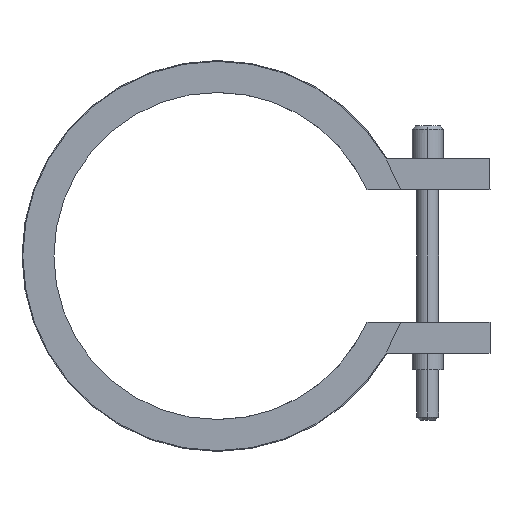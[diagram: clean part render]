
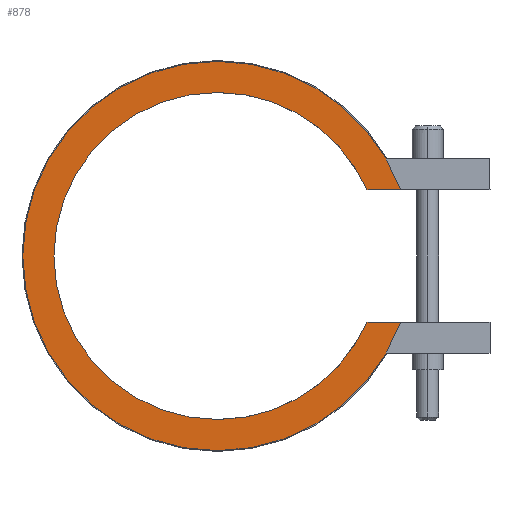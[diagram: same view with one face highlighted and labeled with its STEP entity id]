
A CAD part, left-side view. The second image highlights one B-rep face of the part: STEP entity #878.
In plain terms, the highlighted planar face has unit normal (-1, 0, 0).
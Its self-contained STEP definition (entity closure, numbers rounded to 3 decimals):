
#416=CARTESIAN_POINT('Vertex',(-15.,-19.203,-8.5)) ;
#419=CARTESIAN_POINT('Line Origine',(-15.,-21.357,-8.5)) ;
#423=CARTESIAN_POINT('Vertex',(-15.,-23.511,-8.5)) ;
#469=CARTESIAN_POINT('Vertex',(-15.,0.,-25.)) ;
#472=CARTESIAN_POINT('Axis2P3D Location',(-15.,0.,0.)) ;
#493=CARTESIAN_POINT('Vertex',(-15.,0.,25.)) ;
#496=CARTESIAN_POINT('Axis2P3D Location',(-15.,0.,0.)) ;
#508=CARTESIAN_POINT('Axis2P3D Location',(-15.,0.,0.)) ;
#512=CARTESIAN_POINT('Vertex',(-15.,-23.511,8.5)) ;
#532=CARTESIAN_POINT('Line Origine',(-15.,-21.357,8.5)) ;
#536=CARTESIAN_POINT('Vertex',(-15.,-19.203,8.5)) ;
#824=CARTESIAN_POINT('Axis2P3D Location',(-15.,0.,0.)) ;
#828=CARTESIAN_POINT('Vertex',(-15.,0.,-21.)) ;
#851=CARTESIAN_POINT('Axis2P3D Location',(-15.,0.,0.)) ;
#856=CARTESIAN_POINT('Axis2P3D Location',(-15.,0.,0.)) ;
#860=CARTESIAN_POINT('Vertex',(-15.,0.,21.)) ;
#863=CARTESIAN_POINT('Axis2P3D Location',(-15.,0.,0.)) ;
#420=DIRECTION('Vector Direction',(0.,1.,0.)) ;
#473=DIRECTION('Axis2P3D Direction',(1.,0.,-0.)) ;
#497=DIRECTION('Axis2P3D Direction',(1.,0.,-0.)) ;
#509=DIRECTION('Axis2P3D Direction',(1.,0.,-0.)) ;
#533=DIRECTION('Vector Direction',(0.,-1.,0.)) ;
#825=DIRECTION('Axis2P3D Direction',(1.,0.,-0.)) ;
#852=DIRECTION('Axis2P3D Direction',(1.,0.,0.)) ;
#853=DIRECTION('Axis2P3D XDirection',(0.,0.,-1.)) ;
#857=DIRECTION('Axis2P3D Direction',(1.,0.,0.)) ;
#864=DIRECTION('Axis2P3D Direction',(1.,0.,0.)) ;
#474=AXIS2_PLACEMENT_3D('Circle Axis2P3D',#472,#473,$) ;
#498=AXIS2_PLACEMENT_3D('Circle Axis2P3D',#496,#497,$) ;
#510=AXIS2_PLACEMENT_3D('Circle Axis2P3D',#508,#509,$) ;
#826=AXIS2_PLACEMENT_3D('Circle Axis2P3D',#824,#825,$) ;
#854=AXIS2_PLACEMENT_3D('Plane Axis2P3D',#851,#852,#853) ;
#858=AXIS2_PLACEMENT_3D('Circle Axis2P3D',#856,#857,$) ;
#865=AXIS2_PLACEMENT_3D('Circle Axis2P3D',#863,#864,$) ;
#869=ORIENTED_EDGE('',*,*,#425,.T.) ;
#870=ORIENTED_EDGE('',*,*,#830,.T.) ;
#871=ORIENTED_EDGE('',*,*,#862,.T.) ;
#872=ORIENTED_EDGE('',*,*,#867,.T.) ;
#873=ORIENTED_EDGE('',*,*,#538,.T.) ;
#874=ORIENTED_EDGE('',*,*,#514,.F.) ;
#875=ORIENTED_EDGE('',*,*,#500,.F.) ;
#876=ORIENTED_EDGE('',*,*,#476,.F.) ;
#421=VECTOR('Line Direction',#420,1.) ;
#534=VECTOR('Line Direction',#533,1.) ;
#878=ADVANCED_FACE('14042030',(#877),#855,.F.) ;
#475=CIRCLE('generated circle',#474,25.) ;
#499=CIRCLE('generated circle',#498,25.) ;
#511=CIRCLE('generated circle',#510,25.) ;
#827=CIRCLE('generated circle',#826,21.) ;
#859=CIRCLE('generated circle',#858,21.) ;
#866=CIRCLE('generated circle',#865,21.) ;
#425=EDGE_CURVE('',#424,#417,#422,.T.) ;
#476=EDGE_CURVE('',#424,#470,#475,.T.) ;
#500=EDGE_CURVE('',#470,#494,#499,.T.) ;
#514=EDGE_CURVE('',#494,#513,#511,.T.) ;
#538=EDGE_CURVE('',#537,#513,#535,.T.) ;
#830=EDGE_CURVE('',#417,#829,#827,.T.) ;
#862=EDGE_CURVE('',#829,#861,#859,.T.) ;
#867=EDGE_CURVE('',#861,#537,#866,.T.) ;
#868=EDGE_LOOP('',(#869,#870,#871,#872,#873,#874,#875,#876)) ;
#877=FACE_OUTER_BOUND('',#868,.T.) ;
#422=LINE('Line',#419,#421) ;
#535=LINE('Line',#532,#534) ;
#855=PLANE('Plane',#854) ;
#417=VERTEX_POINT('',#416) ;
#424=VERTEX_POINT('',#423) ;
#470=VERTEX_POINT('',#469) ;
#494=VERTEX_POINT('',#493) ;
#513=VERTEX_POINT('',#512) ;
#537=VERTEX_POINT('',#536) ;
#829=VERTEX_POINT('',#828) ;
#861=VERTEX_POINT('',#860) ;
